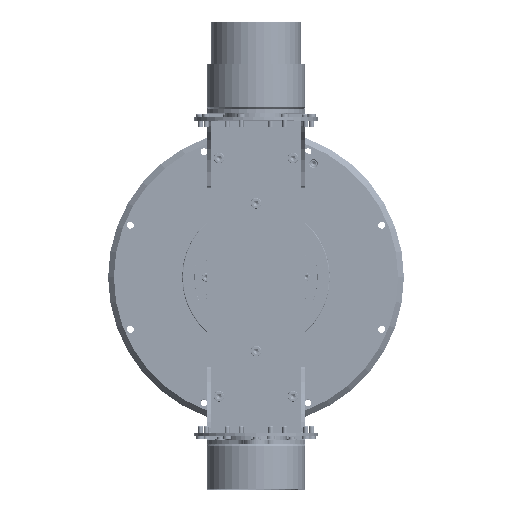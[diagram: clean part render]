
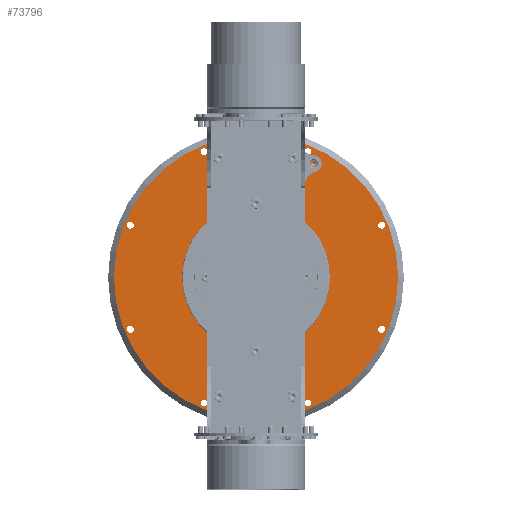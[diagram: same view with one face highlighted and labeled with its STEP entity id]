
A CAD part, top view. The second image highlights one B-rep face of the part: STEP entity #73796.
In plain terms, the highlighted planar face has unit normal (0, 0, 1) as drawn and (1, 0, 0) by its records, which use the part's own axes.
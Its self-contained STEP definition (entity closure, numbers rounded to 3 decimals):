
#4047=FACE_BOUND('',#13768,.T.);
#4048=FACE_BOUND('',#13769,.T.);
#4049=FACE_BOUND('',#13770,.T.);
#4050=FACE_BOUND('',#13771,.T.);
#4051=FACE_BOUND('',#13772,.T.);
#4052=FACE_BOUND('',#13773,.T.);
#4053=FACE_BOUND('',#13774,.T.);
#4054=FACE_BOUND('',#13775,.T.);
#4055=FACE_BOUND('',#13776,.T.);
#4056=FACE_BOUND('',#13777,.T.);
#5061=PLANE('',#79957);
#9468=FACE_OUTER_BOUND('',#13767,.T.);
#13767=EDGE_LOOP('',(#53431));
#13768=EDGE_LOOP('',(#53432));
#13769=EDGE_LOOP('',(#53433));
#13770=EDGE_LOOP('',(#53434));
#13771=EDGE_LOOP('',(#53435));
#13772=EDGE_LOOP('',(#53436));
#13773=EDGE_LOOP('',(#53437));
#13774=EDGE_LOOP('',(#53438));
#13775=EDGE_LOOP('',(#53439));
#13776=EDGE_LOOP('',(#53440));
#13777=EDGE_LOOP('',(#53441));
#29362=CIRCLE('',#78955,3.1);
#29916=CIRCLE('',#79921,4.188);
#29918=CIRCLE('',#79925,4.188);
#29920=CIRCLE('',#79929,4.188);
#29922=CIRCLE('',#79933,4.188);
#29924=CIRCLE('',#79937,4.188);
#29926=CIRCLE('',#79941,4.188);
#29928=CIRCLE('',#79945,4.188);
#29930=CIRCLE('',#79949,4.188);
#29933=CIRCLE('',#79956,173.);
#29934=CIRCLE('',#79958,90.05);
#33102=VERTEX_POINT('',#108786);
#33766=VERTEX_POINT('',#110867);
#33768=VERTEX_POINT('',#110875);
#33770=VERTEX_POINT('',#110883);
#33772=VERTEX_POINT('',#110891);
#33774=VERTEX_POINT('',#110899);
#33776=VERTEX_POINT('',#110907);
#33778=VERTEX_POINT('',#110915);
#33780=VERTEX_POINT('',#110923);
#33783=VERTEX_POINT('',#110936);
#33784=VERTEX_POINT('',#110940);
#40467=EDGE_CURVE('',#33102,#33102,#29362,.T.);
#41473=EDGE_CURVE('',#33766,#33766,#29916,.T.);
#41477=EDGE_CURVE('',#33768,#33768,#29918,.T.);
#41481=EDGE_CURVE('',#33770,#33770,#29920,.T.);
#41485=EDGE_CURVE('',#33772,#33772,#29922,.T.);
#41489=EDGE_CURVE('',#33774,#33774,#29924,.T.);
#41493=EDGE_CURVE('',#33776,#33776,#29926,.T.);
#41497=EDGE_CURVE('',#33778,#33778,#29928,.T.);
#41501=EDGE_CURVE('',#33780,#33780,#29930,.T.);
#41506=EDGE_CURVE('',#33783,#33783,#29933,.T.);
#41508=EDGE_CURVE('',#33784,#33784,#29934,.T.);
#53431=ORIENTED_EDGE('',*,*,#41506,.T.);
#53432=ORIENTED_EDGE('',*,*,#40467,.T.);
#53433=ORIENTED_EDGE('',*,*,#41473,.T.);
#53434=ORIENTED_EDGE('',*,*,#41477,.T.);
#53435=ORIENTED_EDGE('',*,*,#41481,.T.);
#53436=ORIENTED_EDGE('',*,*,#41485,.T.);
#53437=ORIENTED_EDGE('',*,*,#41489,.T.);
#53438=ORIENTED_EDGE('',*,*,#41493,.T.);
#53439=ORIENTED_EDGE('',*,*,#41497,.T.);
#53440=ORIENTED_EDGE('',*,*,#41501,.T.);
#53441=ORIENTED_EDGE('',*,*,#41508,.F.);
#73796=ADVANCED_FACE('',(#9468,#4047,#4048,#4049,#4050,#4051,#4052,#4053,
#4054,#4055,#4056),#5061,.T.);
#78955=AXIS2_PLACEMENT_3D('',#108787,#87083,#87084);
#79921=AXIS2_PLACEMENT_3D('',#110869,#89467,#89468);
#79925=AXIS2_PLACEMENT_3D('',#110877,#89477,#89478);
#79929=AXIS2_PLACEMENT_3D('',#110885,#89487,#89488);
#79933=AXIS2_PLACEMENT_3D('',#110893,#89497,#89498);
#79937=AXIS2_PLACEMENT_3D('',#110901,#89507,#89508);
#79941=AXIS2_PLACEMENT_3D('',#110909,#89517,#89518);
#79945=AXIS2_PLACEMENT_3D('',#110917,#89527,#89528);
#79949=AXIS2_PLACEMENT_3D('',#110925,#89537,#89538);
#79956=AXIS2_PLACEMENT_3D('',#110937,#89553,#89554);
#79957=AXIS2_PLACEMENT_3D('',#110939,#89556,#89557);
#79958=AXIS2_PLACEMENT_3D('',#110941,#89558,#89559);
#87083=DIRECTION('center_axis',(-1.,0.,0.));
#87084=DIRECTION('ref_axis',(0.,0.,-1.));
#89467=DIRECTION('center_axis',(-1.,0.,0.));
#89468=DIRECTION('ref_axis',(0.,0.,1.));
#89477=DIRECTION('center_axis',(-1.,0.,0.));
#89478=DIRECTION('ref_axis',(0.,0.,1.));
#89487=DIRECTION('center_axis',(-1.,0.,0.));
#89488=DIRECTION('ref_axis',(0.,0.,1.));
#89497=DIRECTION('center_axis',(-1.,0.,0.));
#89498=DIRECTION('ref_axis',(0.,0.,1.));
#89507=DIRECTION('center_axis',(-1.,0.,0.));
#89508=DIRECTION('ref_axis',(0.,0.,1.));
#89517=DIRECTION('center_axis',(-1.,0.,0.));
#89518=DIRECTION('ref_axis',(0.,0.,1.));
#89527=DIRECTION('center_axis',(-1.,0.,0.));
#89528=DIRECTION('ref_axis',(0.,0.,1.));
#89537=DIRECTION('center_axis',(-1.,0.,0.));
#89538=DIRECTION('ref_axis',(0.,0.,1.));
#89553=DIRECTION('center_axis',(1.,0.,0.));
#89554=DIRECTION('ref_axis',(0.,0.,-1.));
#89556=DIRECTION('center_axis',(1.,0.,0.));
#89557=DIRECTION('ref_axis',(0.,0.,-1.));
#89558=DIRECTION('center_axis',(1.,0.,0.));
#89559=DIRECTION('ref_axis',(0.,0.,-1.));
#108786=CARTESIAN_POINT('',(0.,-138.293,73.1));
#108787=CARTESIAN_POINT('Origin',(0.,-138.293,70.));
#110867=CARTESIAN_POINT('',(0.,152.902,-67.522));
#110869=CARTESIAN_POINT('Origin',(0.,152.902,-63.334));
#110875=CARTESIAN_POINT('',(0.,63.334,148.714));
#110877=CARTESIAN_POINT('Origin',(0.,63.334,152.902));
#110883=CARTESIAN_POINT('',(0.,-152.902,59.146));
#110885=CARTESIAN_POINT('Origin',(0.,-152.902,63.334));
#110891=CARTESIAN_POINT('',(0.,-63.334,-157.09));
#110893=CARTESIAN_POINT('Origin',(0.,-63.334,-152.902));
#110899=CARTESIAN_POINT('',(0.,-152.902,-67.522));
#110901=CARTESIAN_POINT('Origin',(0.,-152.902,-63.334));
#110907=CARTESIAN_POINT('',(0.,-63.334,148.714));
#110909=CARTESIAN_POINT('Origin',(0.,-63.334,152.902));
#110915=CARTESIAN_POINT('',(0.,63.334,-157.09));
#110917=CARTESIAN_POINT('Origin',(0.,63.334,-152.902));
#110923=CARTESIAN_POINT('',(0.,152.902,59.146));
#110925=CARTESIAN_POINT('Origin',(0.,152.902,63.334));
#110936=CARTESIAN_POINT('',(0.,0.,
173.));
#110937=CARTESIAN_POINT('Origin',(0.,0.,0.));
#110939=CARTESIAN_POINT('Origin',(0.,0.,-90.05));
#110940=CARTESIAN_POINT('',(0.,0.,90.05));
#110941=CARTESIAN_POINT('Origin',(0.,0.,0.));
